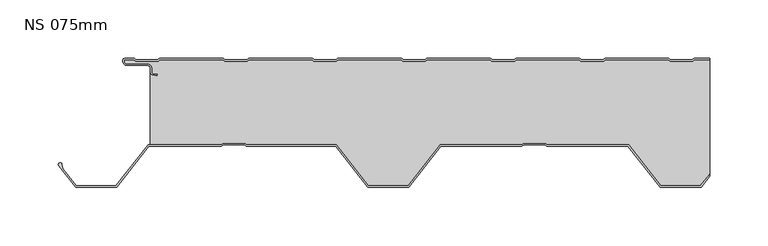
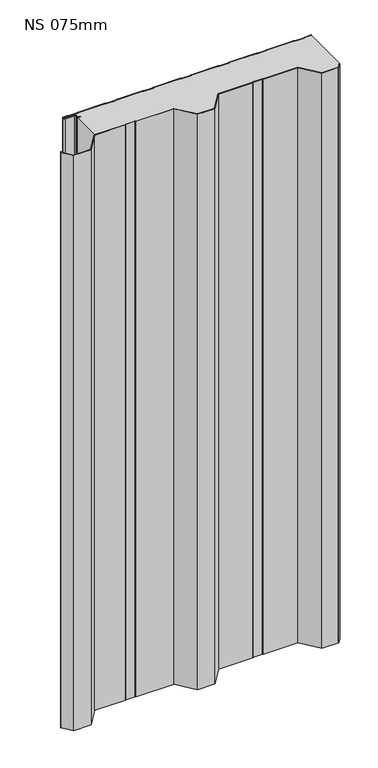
"""IFC4 building model written with IfcOpenShell, lengths in millimetres: plate geometry, KIP-MEX-KC-R19-CP-NS-SL : NS 075mm."""

from ifc_helpers import new_model, si_unit, point, frame_2d, origin, origin_with_axes, place, context, project, spatial, polyline, circle_curve, trimmed, segment, composite_curve, outline, extrude, source, transform, mapped, element, save


def ns_075mm_1ef12357(model_context):
    return source(origin(), model_context, "Body", "SweptSolid", [
        extrude(outline(composite_curve([segment(polyline([(227.1259911, -0.0163932), (239.9972861, -0.0159213), (239.9973228, -1.0159213), (226.9768766, -1.0163987), (225.5912877, -2.2166802), (206.2161214, -2.2173906), (204.8304444, -1.0172107), (150.7770291, -1.0191927), (149.3914401, -2.2194742), (130.0162738, -2.2201847), (128.6305968, -1.0200048), (74.5771815, -1.0219868), (73.1915926, -2.2222683), (53.8164263, -2.2229787), (52.4307493, -1.0227988), (-1.622666, -1.0247808), (-3.008255, -2.2250624), (-22.3834213, -2.2257728), (-23.7690983, -1.0255929), (-77.8225136, -1.0275749), (-79.2081025, -2.2278564), (-98.5832688, -2.2285668), (-99.9689458, -1.028387), (-154.0223611, -1.030369), (-155.4079501, -2.2306505), (-174.7831164, -2.2313609), (-176.1687934, -1.031181), (-230.2222087, -1.033163), (-231.6077976, -2.2334445), (-250.9829639, -2.234155), (-252.3686537, -1.033964), (-260.8702151, -1.0342757), (-260.8701601, -2.5341955)]), True, "CONTINUOUS"), segment(trimmed(circle_curve(frame_2d((-258.3702559, -2.5341038)), 2.4999043), [point((-260.8701601, -2.5341955))], [point((-258.3701642, -5.0340081))], True, "CARTESIAN"), True, "CONTINUOUS"), segment(polyline([(-258.3701642, -5.0340081), (-240.3695792, -5.0333481)]), True, "CONTINUOUS"), segment(trimmed(circle_curve(frame_2d((-240.3694692, -8.033707)), 3.0003589), [point((-240.3695792, -5.0333481))], [point((-237.3691111, -8.031496))], False, "CARTESIAN"), True, "CONTINUOUS"), segment(polyline([(-237.3691111, -8.031496), (-237.3689792, -11.6278092)]), True, "CONTINUOUS"), segment(trimmed(circle_curve(frame_2d((-235.8682039, -11.6277542)), 1.5007756), [point((-237.3689792, -11.6278092))], [point((-236.1276312, -13.1059371))], True, "CARTESIAN"), True, "CONTINUOUS"), segment(polyline([(-236.1276312, -13.1059371), (-232.5852736, -13.7276357), (-232.7581358, -14.7125821), (-236.3004941, -14.0908834)]), True, "CONTINUOUS"), segment(trimmed(circle_curve(frame_2d((-235.8682045, -11.6277538)), 2.5007763), [point((-236.3004941, -14.0908834))], [point((-238.3689803, -11.6293201))], False, "CARTESIAN"), True, "CONTINUOUS"), segment(polyline([(-238.3689803, -11.6293201), (-238.3691122, -8.0321373)]), True, "CONTINUOUS"), segment(trimmed(circle_curve(frame_2d((-240.3694678, -8.0337098)), 2.0003562), [point((-238.3691122, -8.0321373))], [point((-240.3695411, -6.0333536))], True, "CARTESIAN"), True, "CONTINUOUS"), segment(polyline([(-240.3695411, -6.0333536), (-258.3701386, -6.0340136)]), True, "CONTINUOUS"), segment(trimmed(circle_curve(frame_2d((-258.3702669, -2.5340983)), 3.4999153), [point((-258.3701386, -6.0340136))], [point((-261.8701822, -2.5342266))], False, "CARTESIAN"), True, "CONTINUOUS"), segment(polyline([(-261.8701822, -2.5342266), (-261.8702189, -1.534303)]), True, "CONTINUOUS"), segment(trimmed(circle_curve(frame_2d((-260.3702394, -1.534248)), 1.4999795), [point((-261.8702189, -1.534303))], [point((-260.3702944, -0.0342685))], False, "CARTESIAN"), True, "CONTINUOUS"), segment(polyline([(-260.3702944, -0.0342685), (-252.5178287, -0.0339805)]), True, "CONTINUOUS"), segment(trimmed(circle_curve(frame_2d((-252.5177774, -1.4339777)), 1.3999972), [point((-252.5178287, -0.0339805))], [point((-251.6011993, -0.3757354))], False, "CARTESIAN"), True, "CONTINUOUS"), segment(polyline([(-251.6011993, -0.3757354), (-250.6101202, -1.2341413), (-231.9807147, -1.2334582), (-230.9896986, -0.3749796)]), True, "CONTINUOUS"), segment(trimmed(circle_curve(frame_2d((-230.0730429, -1.4331547)), 1.3999972), [point((-230.9896986, -0.3749796))], [point((-230.0730942, -0.0331575))], False, "CARTESIAN"), True, "CONTINUOUS"), segment(polyline([(-230.0730942, -0.0331575), (-176.3179812, -0.0311865)]), True, "CONTINUOUS"), segment(trimmed(circle_curve(frame_2d((-176.3179298, -1.4311837)), 1.3999972), [point((-176.3179812, -0.0311865))], [point((-175.4013517, -0.3729414))], False, "CARTESIAN"), True, "CONTINUOUS"), segment(polyline([(-175.4013517, -0.3729414), (-174.4102726, -1.2313472), (-155.7808672, -1.2306641), (-154.789851, -0.3721856)]), True, "CONTINUOUS"), segment(trimmed(circle_curve(frame_2d((-153.8731953, -1.4303607)), 1.3999972), [point((-154.789851, -0.3721856))], [point((-153.8732467, -0.0303635))], False, "CARTESIAN"), True, "CONTINUOUS"), segment(polyline([(-153.8732467, -0.0303635), (-100.1181336, -0.0283924)]), True, "CONTINUOUS"), segment(trimmed(circle_curve(frame_2d((-100.1180823, -1.4283896)), 1.3999972), [point((-100.1181336, -0.0283924))], [point((-99.2015042, -0.3701473))], False, "CARTESIAN"), True, "CONTINUOUS"), segment(polyline([(-99.2015042, -0.3701473), (-98.2104251, -1.2285532), (-79.5810196, -1.2278701), (-78.5900035, -0.3693915)]), True, "CONTINUOUS"), segment(trimmed(circle_curve(frame_2d((-77.6733478, -1.4275666)), 1.3999972), [point((-78.5900035, -0.3693915))], [point((-77.6733991, -0.0275694))], False, "CARTESIAN"), True, "CONTINUOUS"), segment(polyline([(-77.6733991, -0.0275694), (-23.9182861, -0.0255984)]), True, "CONTINUOUS"), segment(trimmed(circle_curve(frame_2d((-23.9182347, -1.4255956)), 1.3999972), [point((-23.9182861, -0.0255984))], [point((-23.0016566, -0.3673533))], False, "CARTESIAN"), True, "CONTINUOUS"), segment(polyline([(-23.0016566, -0.3673533), (-22.0105775, -1.2257591), (-3.3811721, -1.225076), (-2.3901559, -0.3665975)]), True, "CONTINUOUS"), segment(trimmed(circle_curve(frame_2d((-1.4735002, -1.4247726)), 1.3999972), [point((-2.3901559, -0.3665975))], [point((-1.4735516, -0.0247754))], False, "CARTESIAN"), True, "CONTINUOUS"), segment(polyline([(-1.4735516, -0.0247754), (52.2815615, -0.0228043)]), True, "CONTINUOUS"), segment(trimmed(circle_curve(frame_2d((52.2816128, -1.4228015)), 1.3999972), [point((52.2815615, -0.0228043))], [point((53.1981909, -0.3645592))], False, "CARTESIAN"), True, "CONTINUOUS"), segment(polyline([(53.1981909, -0.3645592), (54.18927, -1.2229651), (72.8186755, -1.222282), (73.8096916, -0.3638034)]), True, "CONTINUOUS"), segment(trimmed(circle_curve(frame_2d((74.7263473, -1.4219785)), 1.3999972), [point((73.8096916, -0.3638034))], [point((74.726296, -0.0219813))], False, "CARTESIAN"), True, "CONTINUOUS"), segment(polyline([(74.726296, -0.0219813), (128.481409, -0.0200103)]), True, "CONTINUOUS"), segment(trimmed(circle_curve(frame_2d((128.4814604, -1.4200075)), 1.3999972), [point((128.481409, -0.0200103))], [point((129.3980385, -0.3617652))], False, "CARTESIAN"), True, "CONTINUOUS"), segment(polyline([(129.3980385, -0.3617652), (130.3891176, -1.220171), (149.018523, -1.2194879), (150.0095392, -0.3610094)]), True, "CONTINUOUS"), segment(trimmed(circle_curve(frame_2d((150.9261949, -1.4191845)), 1.3999972), [point((150.0095392, -0.3610094))], [point((150.9261435, -0.0191873))], False, "CARTESIAN"), True, "CONTINUOUS"), segment(polyline([(150.9261435, -0.0191873), (204.6812566, -0.0172162)]), True, "CONTINUOUS"), segment(trimmed(circle_curve(frame_2d((204.6813079, -1.4172134)), 1.3999972), [point((204.6812566, -0.0172162))], [point((205.597886, -0.3589711))], False, "CARTESIAN"), True, "CONTINUOUS"), segment(polyline([(205.597886, -0.3589711), (206.5889651, -1.217377), (225.2183706, -1.2166939), (226.2093867, -0.3582153)]), True, "CONTINUOUS"), segment(trimmed(circle_curve(frame_2d((227.1260424, -1.4163904)), 1.3999972), [point((226.2093867, -0.3582153))], [point((227.1259911, -0.0163932))], False, "CARTESIAN"), True, "CONTINUOUS")], self_intersect=False)), origin_with_axes(), (0.0, 0.0, 1.0), 1224.3718713),
        extrude(outline(composite_curve([segment(polyline([(-314.0514565, -90.3743988), (-313.3501987, -94.3468053), (-301.8079514, -109.0358259), (-267.7799839, -109.0345782), (-240.2812374, -74.0335319), (-177.8440581, -74.0312425), (-176.4298117, -73.0311895), (-157.22229, -73.0304852), (-155.8079703, -74.0304345), (-79.3089933, -74.0276295), (-51.8076802, -109.0266591), (-17.7797127, -109.0254113), (9.7190337, -74.024365), (79.1871118, -74.0218178), (80.6013583, -73.0217649), (99.8088799, -73.0210606), (101.2231997, -74.0210098), (170.6912778, -74.0184626), (198.192591, -109.0174922), (232.2205584, -109.0162445), (240.0009198, -99.1132189), (240.0009791, -100.7318093), (232.7066303, -110.0162266), (197.7065924, -110.01751), (170.2052792, -75.0184804), (100.9054116, -75.0210215), (99.4910918, -74.0210722), (80.9192197, -74.0217532), (79.5049733, -75.0218062), (10.2051057, -75.0243472), (-17.2936408, -110.0253935), (-52.2936788, -110.0266769), (-79.7949919, -75.0276473), (-156.1257584, -75.0304461), (-157.5400781, -74.0304969), (-176.1119503, -74.0311779), (-177.5261967, -75.0312308), (-239.7951655, -75.0335141), (-267.2939119, -110.0345604), (-302.2939499, -110.0358437), (-316.6619777, -91.7506476)]), True, "CONTINUOUS"), segment(trimmed(circle_curve(frame_2d((-315.482533, -90.8238709)), 1.5000016), [point((-316.6619777, -91.7506476))], [point((-314.0514565, -90.3743988))], False, "CARTESIAN"), True, "CONTINUOUS")], self_intersect=False)), origin_with_axes(), (0.0, 0.0, 1.0), 1224.3718713),
        extrude(outline(composite_curve([segment(polyline([(-238.3666921, -74.0334617), (-238.3689803, -11.6293311)]), True, "CONTINUOUS"), segment(trimmed(circle_curve(frame_2d((-235.8682046, -11.6277649)), 2.5007762), [point((-238.3689803, -11.6293311))], [point((-236.3004941, -14.0908945))], True, "CARTESIAN"), True, "CONTINUOUS"), segment(polyline([(-236.3004941, -14.0908945), (-232.7581358, -14.7125932), (-232.5852735, -13.7276467), (-236.1276311, -13.1059481)]), True, "CONTINUOUS"), segment(trimmed(circle_curve(frame_2d((-235.8682038, -11.6277653)), 1.5007755), [point((-236.1276311, -13.1059481))], [point((-237.3689793, -11.6278203))], False, "CARTESIAN"), True, "CONTINUOUS"), segment(polyline([(-237.3689793, -11.6278203), (-237.3691112, -8.031507)]), True, "CONTINUOUS"), segment(trimmed(circle_curve(frame_2d((-240.3694692, -8.033718)), 3.0003589), [point((-237.3691112, -8.031507))], [point((-240.3695792, -5.0333592))], True, "CARTESIAN"), True, "CONTINUOUS"), segment(polyline([(-240.3695792, -5.0333592), (-258.3701642, -5.0340192)]), True, "CONTINUOUS"), segment(trimmed(circle_curve(frame_2d((-258.3702558, -2.5341149)), 2.4999043), [point((-258.3701642, -5.0340192))], [point((-260.8701601, -2.5342066))], False, "CARTESIAN"), True, "CONTINUOUS"), segment(polyline([(-260.8701601, -2.5342066), (-260.8702151, -1.0342784), (-252.3686505, -1.0339667), (-250.9829639, -2.234155), (-231.6077976, -2.2334445), (-230.2222086, -1.033163), (-176.1687933, -1.031181), (-174.7831163, -2.2313609), (-155.40795, -2.2306505), (-154.0223611, -1.030369), (-99.9689458, -1.028387), (-98.5832688, -2.2285668), (-79.2081025, -2.2278564), (-77.8225135, -1.0275749), (-23.7690982, -1.0255929), (-22.3834212, -2.2257728), (-3.0082549, -2.2250624), (-1.622666, -1.0247808), (52.4307493, -1.0227988), (53.8164263, -2.2229787), (73.1915926, -2.2222683), (74.5771816, -1.0219868), (128.6305969, -1.0200048), (130.0162739, -2.2201847), (149.3914402, -2.2194742), (150.7770291, -1.0191927), (204.8304444, -1.0172107), (206.2161214, -2.2173906), (225.5912877, -2.2166802), (226.9768767, -1.0163987), (239.9973228, -1.0159213), (240.0009198, -99.1132189), (232.2205584, -109.0162445), (198.192591, -109.0174922), (170.6912778, -74.0184626), (101.2231997, -74.0210098), (99.8088799, -73.0210606), (80.6013583, -73.0217649), (79.1871118, -74.0218178), (9.7190337, -74.024365), (-17.7797127, -109.0254113), (-51.8076802, -109.0266591), (-79.3089933, -74.0276295), (-155.8079703, -74.0304345), (-157.22229, -73.0304852), (-176.4298117, -73.0311895), (-177.8440581, -74.0312425), (-238.3666921, -74.0334617)]), True, "CONTINUOUS")], self_intersect=False)), origin_with_axes(), (0.0, 0.0, 1.0), 1224.3718713),
    ])


if __name__ == "__main__":
    model = new_model("IFC4")
    model_context = context("Model", 3, world=origin())
    ifc_project = project(units=[si_unit("LENGTHUNIT", "METRE", prefix="MILLI")], contexts=[model_context])
    site = spatial("IfcSite", under=ifc_project)
    building = spatial("IfcBuilding", under=site)
    placement = place(None, origin())
    ns_075mm_shape = ns_075mm_1ef12357(model_context)
    element("IfcPlate", 1, ObjectType="KIP-MEX-KC-R19-CP-NS-SL : NS 075mm", at=placement, inside=building, context=model_context, shape_type="MappedRepresentation", body=[
        mapped(ns_075mm_shape, transform((0.0, 0.0, 0.0), x_axis=(1.0, 0.0, 0.0), y_axis=(0.0, 1.0, 0.0), z_axis=(0.0, 0.0, 1.0))),
    ])
    save(model, "model.ifc")
